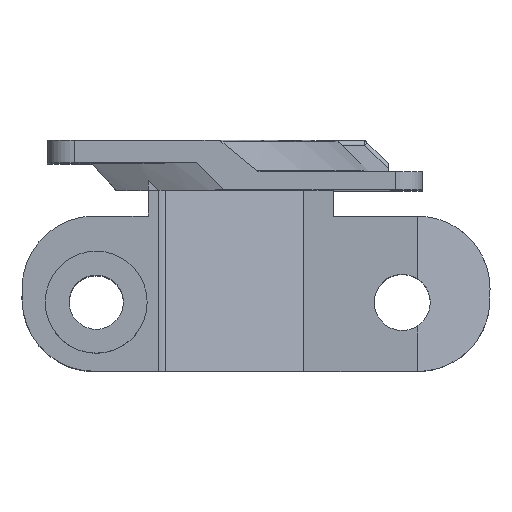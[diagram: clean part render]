
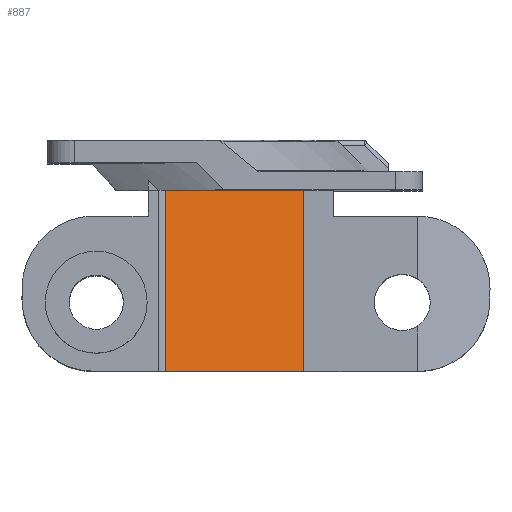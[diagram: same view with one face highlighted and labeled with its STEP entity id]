
A CAD part, top view. The second image highlights one B-rep face of the part: STEP entity #887.
In plain terms, the highlighted planar face has unit normal (0.358, 0, 0.934).
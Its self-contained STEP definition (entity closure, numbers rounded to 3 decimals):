
#755 = VERTEX_POINT ( 'NONE', #2985 ) ;
#760 = VERTEX_POINT ( 'NONE', #2977 ) ;
#767 = EDGE_CURVE ( 'NONE', #755, #760, #2971, .T. ) ;
#787 = VERTEX_POINT ( 'NONE', #3124 ) ;
#831 = EDGE_CURVE ( 'NONE', #760, #787, #3217, .T. ) ;
#859 = ORIENTED_EDGE ( 'NONE', *, *, #831, .T. ) ;
#860 = ORIENTED_EDGE ( 'NONE', *, *, #916, .T. ) ;
#861 = ORIENTED_EDGE ( 'NONE', *, *, #767, .T. ) ;
#883 = EDGE_CURVE ( 'NONE', #915, #787, #3279, .T. ) ;
#887 = ADVANCED_FACE ( 'NONE', ( #3266 ), #3007, .T. ) ;
#915 = VERTEX_POINT ( 'NONE', #3549 ) ;
#916 = EDGE_CURVE ( 'NONE', #915, #755, #3517, .T. ) ;
#962 = EDGE_LOOP ( 'NONE', ( #859, #963, #860, #861 ) ) ;
#963 = ORIENTED_EDGE ( 'NONE', *, *, #883, .F. ) ;
#2971 = LINE ( 'NONE', #3169, #3168 ) ;
#2977 = CARTESIAN_POINT ( 'NONE',  ( 29.17, 0.224, -5.631 ) ) ;
#2985 = CARTESIAN_POINT ( 'NONE',  ( 44.46, 0.224, -11.499 ) ) ;
#3004 = DIRECTION ( 'NONE',  ( 0.358, 0., 0.934 ) ) ;
#3005 = CARTESIAN_POINT ( 'NONE',  ( 29.17, -0.276, -5.631 ) ) ;
#3007 = PLANE ( 'NONE',  #3012 ) ;
#3012 = AXIS2_PLACEMENT_3D ( 'NONE', #3005, #3004, #3045 ) ;
#3045 = DIRECTION ( 'NONE',  ( 0.934, 0., -0.358 ) ) ;
#3124 = CARTESIAN_POINT ( 'NONE',  ( 29.17, -19.776, -5.631 ) ) ;
#3167 = DIRECTION ( 'NONE',  ( -0.934, 0., 0.358 ) ) ;
#3168 = VECTOR ( 'NONE', #3167, 1000. ) ;
#3169 = CARTESIAN_POINT ( 'NONE',  ( 29.17, 0.224, -5.631 ) ) ;
#3214 = DIRECTION ( 'NONE',  ( 0., -1., 0. ) ) ;
#3215 = VECTOR ( 'NONE', #3214, 1000. ) ;
#3216 = CARTESIAN_POINT ( 'NONE',  ( 29.17, -0.276, -5.631 ) ) ;
#3217 = LINE ( 'NONE', #3216, #3215 ) ;
#3257 = DIRECTION ( 'NONE',  ( -0.934, 0., 0.358 ) ) ;
#3258 = VECTOR ( 'NONE', #3257, 1000. ) ;
#3266 = FACE_OUTER_BOUND ( 'NONE', #962, .T. ) ;
#3278 = CARTESIAN_POINT ( 'NONE',  ( 44.46, -19.776, -11.499 ) ) ;
#3279 = LINE ( 'NONE', #3278, #3258 ) ;
#3422 = DIRECTION ( 'NONE',  ( 0., 1., 0. ) ) ;
#3423 = VECTOR ( 'NONE', #3422, 1000. ) ;
#3424 = CARTESIAN_POINT ( 'NONE',  ( 44.46, -0.276, -11.499 ) ) ;
#3517 = LINE ( 'NONE', #3424, #3423 ) ;
#3549 = CARTESIAN_POINT ( 'NONE',  ( 44.46, -19.776, -11.499 ) ) ;
